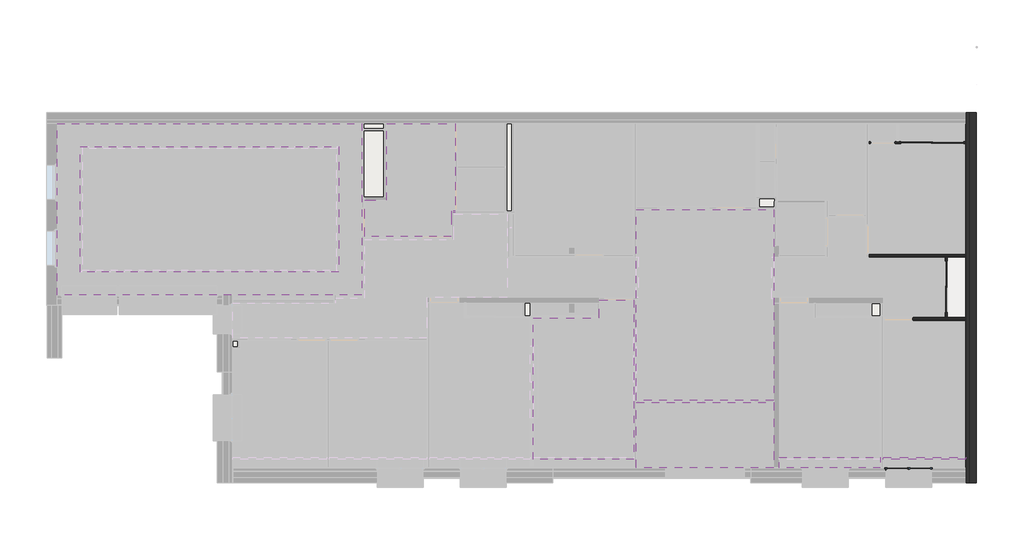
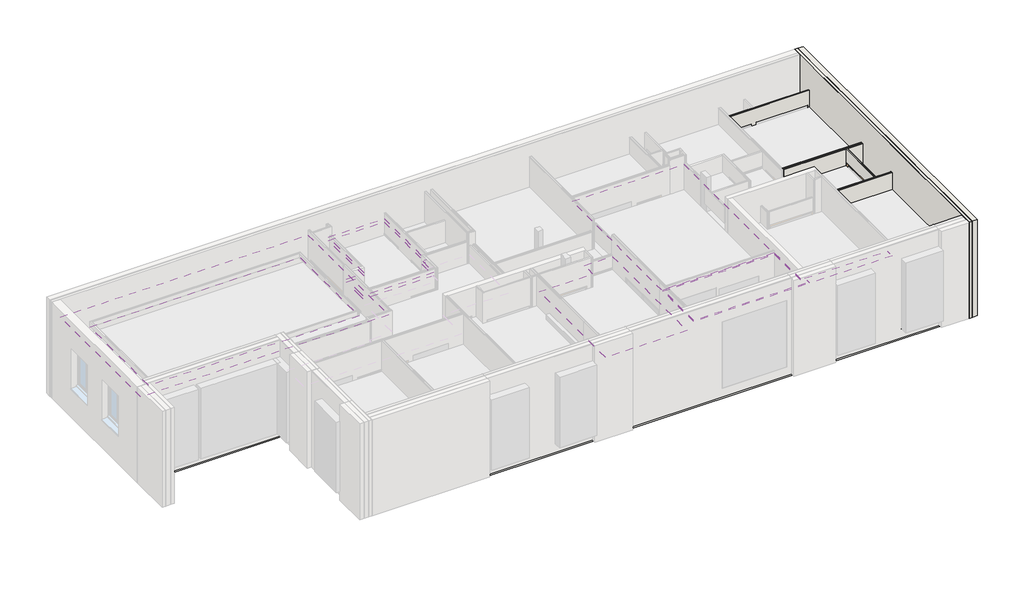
# One storey, part 6 of 8: 10 coverings, 6 walls, 5 slabs, 2 doors, 1 window.
"""IFC4 building model written with IfcOpenShell, lengths in millimetres."""

from ifc_helpers import new_model, si_unit, frame, origin, origin_with_axes, place, context, project, spatial, polyline, outline, extrude, transform, mapped, element, save
from components import door_b5ea6a65, door_9579ce56, window_4ef66e8a

model = new_model("IFC4")

# Units and contexts
model_context = context("Model", 3, world=origin())
ifc_project = project(units=[si_unit("LENGTHUNIT", "METRE", prefix="MILLI")], contexts=[model_context])

# Site, building, storey
site = spatial("IfcSite", under=ifc_project)
building = spatial("IfcBuilding", under=site)
storey = spatial("IfcBuildingStorey", under=building, Name="0 Mairie RDC 0.00", Elevation=0.0)

# Coverings
placement = place(None, origin())
element("IfcCovering", 1, ObjectType="Plafonds - Plafond composé - A Plafond plaque de platre ba10", at=placement, inside=storey, context=model_context, shape_type="SweptSolid", body=[
    extrude(outline(polyline([(1777.6156007, -6633.7824715), (1777.6156007, -8731.1038426), (1127.9012584, -8731.1038426), (1127.9012584, -6633.7824715), (1777.6156007, -6633.7824715)])), frame((0.0, 0.0, 2600.0), z_axis=(0.0, 0.0, 1.0), x_axis=(1.0, 0.0, 0.0)), (0.0, 0.0, 1.0), 40.0),
    extrude(outline(polyline([(1777.6156007, -6633.7824715), (1777.6156007, -8731.1038426), (1127.9012584, -8731.1038426), (1127.9012584, -6633.7824715), (1777.6156007, -6633.7824715)])), frame((0.0, 0.0, 2640.0), z_axis=(0.0, 0.0, 1.0), x_axis=(1.0, 0.0, 0.0)), (0.0, 0.0, 1.0), 10.0),
    extrude(outline(polyline([(-20502.1562042, -13678.5662223), (-23778.2803137, -13678.5662223), (-23778.2803137, -9829.2788136), (-23520.6325674, -9829.2788136), (-23520.6325674, -9549.0775347), (-20502.1562042, -9549.0775347), (-20502.1562042, -13678.5662223)])), frame((0.0, 0.0, 2600.0), z_axis=(0.0, 0.0, 1.0), x_axis=(1.0, 0.0, 0.0)), (0.0, 0.0, 1.0), 40.0),
    extrude(outline(polyline([(-20502.1562042, -13678.5662223), (-23778.2803137, -13678.5662223), (-23778.2803137, -9829.2788136), (-23520.6325674, -9829.2788136), (-23520.6325674, -9549.0775347), (-20502.1562042, -9549.0775347), (-20502.1562042, -13678.5662223)])), frame((0.0, 0.0, 2640.0), z_axis=(0.0, 0.0, 1.0), x_axis=(1.0, 0.0, 0.0)), (0.0, 0.0, 1.0), 10.0),
    extrude(outline(polyline([(-4877.4967035, -1972.7637486), (-4877.4967035, -3257.7490792), (-5427.496701, -3257.7490792), (-5427.496701, -1972.7637486), (-4877.4967035, -1972.7637486)])), frame((0.0, 0.0, 2600.0), z_axis=(0.0, 0.0, 1.0), x_axis=(1.0, 0.0, 0.0)), (0.0, 0.0, 1.0), 40.0),
    extrude(outline(polyline([(-4877.4967035, -1972.7637486), (-4877.4967035, -3257.7490792), (-5427.496701, -3257.7490792), (-5427.496701, -1972.7637486), (-4877.4967035, -1972.7637486)])), frame((0.0, 0.0, 2640.0), z_axis=(0.0, 0.0, 1.0), x_axis=(1.0, 0.0, 0.0)), (0.0, 0.0, 1.0), 10.0),
    extrude(outline(polyline([(-4877.4967035, -3327.7490792), (-4877.4967035, -4510.805772), (-5427.496701, -4510.805772), (-5427.496701, -3327.7490792), (-4877.4967035, -3327.7490792)])), frame((0.0, 0.0, 2600.0), z_axis=(0.0, 0.0, 1.0), x_axis=(1.0, 0.0, 0.0)), (0.0, 0.0, 1.0), 40.0),
    extrude(outline(polyline([(-4877.4967035, -3327.7490792), (-4877.4967035, -4510.805772), (-5427.496701, -4510.805772), (-5427.496701, -3327.7490792), (-4877.4967035, -3327.7490792)])), frame((0.0, 0.0, 2640.0), z_axis=(0.0, 0.0, 1.0), x_axis=(1.0, 0.0, 0.0)), (0.0, 0.0, 1.0), 10.0),
    extrude(outline(polyline([(-1717.7552543, -1972.0566419), (-1717.7552543, -5137.6533676), (-3018.9176162, -5137.6533676), (-3018.9176162, -4652.7868397), (-4807.4967035, -4652.7868397), (-4807.4967035, -1972.0566419), (-1717.7552543, -1972.0566419)])), frame((0.0, 0.0, 2600.0), z_axis=(0.0, 0.0, 1.0), x_axis=(1.0, 0.0, 0.0)), (0.0, 0.0, 1.0), 40.0),
    extrude(outline(polyline([(-1717.7552543, -1972.0566419), (-1717.7552543, -5137.6533676), (-3018.9176162, -5137.6533676), (-3018.9176162, -4652.7868397), (-4807.4967035, -4652.7868397), (-4807.4967035, -1972.0566419), (-1717.7552543, -1972.0566419)])), frame((0.0, 0.0, 2640.0), z_axis=(0.0, 0.0, 1.0), x_axis=(1.0, 0.0, 0.0)), (0.0, 0.0, 1.0), 10.0),
    extrude(outline(polyline([(-634.0175894, -1972.7637486), (-634.0175894, -2602.7637486), (-1617.7552543, -2602.7637486), (-1617.7552543, -1972.7637486), (-634.0175894, -1972.7637486)])), frame((0.0, 0.0, 2600.0), z_axis=(0.0, 0.0, 1.0), x_axis=(1.0, 0.0, 0.0)), (0.0, 0.0, 1.0), 40.0),
    extrude(outline(polyline([(-634.0175894, -1972.7637486), (-634.0175894, -2602.7637486), (-1617.7552543, -2602.7637486), (-1617.7552543, -1972.7637486), (-634.0175894, -1972.7637486)])), frame((0.0, 0.0, 2640.0), z_axis=(0.0, 0.0, 1.0), x_axis=(1.0, 0.0, 0.0)), (0.0, 0.0, 1.0), 10.0),
    extrude(outline(polyline([(-1617.7552543, -2672.7637486), (1777.6156007, -2672.7637486), (1777.6156007, -6533.7824715), (-1617.7552543, -6533.7824715), (-1617.7552543, -2672.7637486)])), frame((0.0, 0.0, 2600.0), z_axis=(0.0, 0.0, 1.0), x_axis=(1.0, 0.0, 0.0)), (0.0, 0.0, 1.0), 40.0),
    extrude(outline(polyline([(-1617.7552543, -2672.7637486), (1777.6156007, -2672.7637486), (1777.6156007, -6533.7824715), (-1617.7552543, -6533.7824715), (-1617.7552543, -2672.7637486)])), frame((0.0, 0.0, 2640.0), z_axis=(0.0, 0.0, 1.0), x_axis=(1.0, 0.0, 0.0)), (0.0, 0.0, 1.0), 10.0),
    extrude(outline(polyline([(1777.6156007, -8831.1038426), (1777.6156007, -13678.5662223), (-1106.3922233, -13678.5662223), (-1106.3922233, -8831.1038426), (1777.6156007, -8831.1038426)])), frame((0.0, 0.0, 2600.0), z_axis=(0.0, 0.0, 1.0), x_axis=(1.0, 0.0, 0.0)), (0.0, 0.0, 1.0), 40.0),
    extrude(outline(polyline([(1777.6156007, -8831.1038426), (1777.6156007, -13678.5662223), (-1106.3922233, -13678.5662223), (-1106.3922233, -8831.1038426), (1777.6156007, -8831.1038426)])), frame((0.0, 0.0, 2640.0), z_axis=(0.0, 0.0, 1.0), x_axis=(1.0, 0.0, 0.0)), (0.0, 0.0, 1.0), 10.0),
    extrude(outline(polyline([(-1576.0769125, -8238.2685444), (-1576.0769125, -8681.7570094), (-3456.0406291, -8681.7570094), (-3456.0406291, -8238.2685444), (-1576.0769125, -8238.2685444)])), frame((0.0, 0.0, 2600.0), z_axis=(0.0, 0.0, 1.0), x_axis=(1.0, 0.0, 0.0)), (0.0, 0.0, 1.0), 40.0),
    extrude(outline(polyline([(-1576.0769125, -8238.2685444), (-1576.0769125, -8681.7570094), (-3456.0406291, -8681.7570094), (-3456.0406291, -8238.2685444), (-1576.0769125, -8238.2685444)])), frame((0.0, 0.0, 2640.0), z_axis=(0.0, 0.0, 1.0), x_axis=(1.0, 0.0, 0.0)), (0.0, 0.0, 1.0), 10.0),
    extrude(outline(polyline([(-3526.0406291, -8751.7570094), (-1206.3922233, -8751.7570094), (-1206.3922233, -13678.5662223), (-4727.496702, -13678.5662223), (-4727.496702, -8238.2685444), (-3526.0406291, -8238.2685444), (-3526.0406291, -8751.7570094)])), frame((0.0, 0.0, 2600.0), z_axis=(0.0, 0.0, 1.0), x_axis=(1.0, 0.0, 0.0)), (0.0, 0.0, 1.0), 40.0),
    extrude(outline(polyline([(-3526.0406291, -8751.7570094), (-1206.3922233, -8751.7570094), (-1206.3922233, -13678.5662223), (-4727.496702, -13678.5662223), (-4727.496702, -8238.2685444), (-3526.0406291, -8238.2685444), (-3526.0406291, -8751.7570094)])), frame((0.0, 0.0, 2640.0), z_axis=(0.0, 0.0, 1.0), x_axis=(1.0, 0.0, 0.0)), (0.0, 0.0, 1.0), 10.0),
    extrude(outline(polyline([(-564.0175894, -1972.7637486), (1777.6156007, -1972.7637486), (1777.6156007, -2602.7637486), (-564.0175894, -2602.7637486), (-564.0175894, -1972.7637486)])), frame((0.0, 0.0, 2600.0), z_axis=(0.0, 0.0, 1.0), x_axis=(1.0, 0.0, 0.0)), (0.0, 0.0, 1.0), 40.0),
    extrude(outline(polyline([(-564.0175894, -1972.7637486), (1777.6156007, -1972.7637486), (1777.6156007, -2602.7637486), (-564.0175894, -2602.7637486), (-564.0175894, -1972.7637486)])), frame((0.0, 0.0, 2640.0), z_axis=(0.0, 0.0, 1.0), x_axis=(1.0, 0.0, 0.0)), (0.0, 0.0, 1.0), 10.0),
    extrude(outline(polyline([(-5527.496701, -1972.7637486), (-5527.496701, -4878.2154166), (-9708.4471465, -4878.2154166), (-9708.4471465, -1972.7637486), (-5527.496701, -1972.7637486)])), frame((0.0, 0.0, 2600.0), z_axis=(0.0, 0.0, 1.0), x_axis=(1.0, 0.0, 0.0)), (0.0, 0.0, 1.0), 40.0),
    extrude(outline(polyline([(-5527.496701, -1972.7637486), (-5527.496701, -4878.2154166), (-9708.4471465, -4878.2154166), (-9708.4471465, -1972.7637486), (-5527.496701, -1972.7637486)])), frame((0.0, 0.0, 2640.0), z_axis=(0.0, 0.0, 1.0), x_axis=(1.0, 0.0, 0.0)), (0.0, 0.0, 1.0), 10.0),
    extrude(outline(polyline([(-9808.4471465, -1972.7637486), (-9808.4471465, -6532.5340392), (-13736.6269046, -6532.5340392), (-13736.6269046, -1972.7637486), (-9808.4471465, -1972.7637486)])), frame((0.0, 0.0, 2600.0), z_axis=(0.0, 0.0, 1.0), x_axis=(1.0, 0.0, 0.0)), (0.0, 0.0, 1.0), 40.0),
    extrude(outline(polyline([(-9808.4471465, -1972.7637486), (-9808.4471465, -6532.5340392), (-13736.6269046, -6532.5340392), (-13736.6269046, -1972.7637486), (-9808.4471465, -1972.7637486)])), frame((0.0, 0.0, 2640.0), z_axis=(0.0, 0.0, 1.0), x_axis=(1.0, 0.0, 0.0)), (0.0, 0.0, 1.0), 10.0),
    extrude(outline(polyline([(-11003.1086334, -8752.6130855), (-11003.1086334, -8132.7867091), (-9804.6455383, -8132.7867091), (-9804.6455383, -13678.5662223), (-13304.255006, -13678.5662223), (-13304.255006, -8752.6130855), (-11003.1086334, -8752.6130855)])), frame((0.0, 0.0, 2600.0), z_axis=(0.0, 0.0, 1.0), x_axis=(1.0, 0.0, 0.0)), (0.0, 0.0, 1.0), 40.0),
    extrude(outline(polyline([(-11003.1086334, -8752.6130855), (-11003.1086334, -8132.7867091), (-9804.6455383, -8132.7867091), (-9804.6455383, -13678.5662223), (-13304.255006, -13678.5662223), (-13304.255006, -8752.6130855), (-11003.1086334, -8752.6130855)])), frame((0.0, 0.0, 2640.0), z_axis=(0.0, 0.0, 1.0), x_axis=(1.0, 0.0, 0.0)), (0.0, 0.0, 1.0), 10.0),
    extrude(outline(polyline([(-13404.255006, -13678.5662223), (-16905.446161, -13678.5662223), (-16905.446161, -8232.7637435), (-15705.446161, -8232.7637435), (-15705.446161, -8752.779598), (-13404.255006, -8752.779598), (-13404.255006, -13678.5662223)])), frame((0.0, 0.0, 2600.0), z_axis=(0.0, 0.0, 1.0), x_axis=(1.0, 0.0, 0.0)), (0.0, 0.0, 1.0), 40.0),
    extrude(outline(polyline([(-13404.255006, -13678.5662223), (-16905.446161, -13678.5662223), (-16905.446161, -8232.7637435), (-15705.446161, -8232.7637435), (-15705.446161, -8752.779598), (-13404.255006, -8752.779598), (-13404.255006, -13678.5662223)])), frame((0.0, 0.0, 2640.0), z_axis=(0.0, 0.0, 1.0), x_axis=(1.0, 0.0, 0.0)), (0.0, 0.0, 1.0), 10.0),
    extrude(outline(polyline([(-17005.446161, -9549.0775347), (-17005.446161, -13678.5662223), (-20402.1562042, -13678.5662223), (-20402.1562042, -9549.0775347), (-17005.446161, -9549.0775347)])), frame((0.0, 0.0, 2600.0), z_axis=(0.0, 0.0, 1.0), x_axis=(1.0, 0.0, 0.0)), (0.0, 0.0, 1.0), 40.0),
    extrude(outline(polyline([(-17005.446161, -9549.0775347), (-17005.446161, -13678.5662223), (-20402.1562042, -13678.5662223), (-20402.1562042, -9549.0775347), (-17005.446161, -9549.0775347)])), frame((0.0, 0.0, 2640.0), z_axis=(0.0, 0.0, 1.0), x_axis=(1.0, 0.0, 0.0)), (0.0, 0.0, 1.0), 10.0),
    extrude(outline(polyline([(-3118.9176162, -4722.7868397), (-3118.9176162, -6533.7824715), (-4727.496702, -6533.7824715), (-4727.496702, -6233.7824715), (-4827.496702, -6233.7824715), (-4827.496702, -4722.7868397), (-3118.9176162, -4722.7868397)])), frame((0.0, 0.0, 2600.0), z_axis=(0.0, 0.0, 1.0), x_axis=(1.0, 0.0, 0.0)), (0.0, 0.0, 1.0), 40.0),
    extrude(outline(polyline([(-3118.9176162, -4722.7868397), (-3118.9176162, -6533.7824715), (-4727.496702, -6533.7824715), (-4727.496702, -6233.7824715), (-4827.496702, -6233.7824715), (-4827.496702, -4722.7868397), (-3118.9176162, -4722.7868397)])), frame((0.0, 0.0, 2640.0), z_axis=(0.0, 0.0, 1.0), x_axis=(1.0, 0.0, 0.0)), (0.0, 0.0, 1.0), 10.0),
    extrude(outline(polyline([(-11073.1086334, -8232.7637435), (-11073.1086334, -8682.6130855), (-13304.255006, -8682.6130855), (-13304.255006, -8232.7637435), (-11073.1086334, -8232.7637435)])), frame((0.0, 0.0, 2600.0), z_axis=(0.0, 0.0, 1.0), x_axis=(1.0, 0.0, 0.0)), (0.0, 0.0, 1.0), 40.0),
    extrude(outline(polyline([(-11073.1086334, -8232.7637435), (-11073.1086334, -8682.6130855), (-13304.255006, -8682.6130855), (-13304.255006, -8232.7637435), (-11073.1086334, -8232.7637435)])), frame((0.0, 0.0, 2640.0), z_axis=(0.0, 0.0, 1.0), x_axis=(1.0, 0.0, 0.0)), (0.0, 0.0, 1.0), 10.0),
    extrude(outline(polyline([(-13671.849822, -8232.7637435), (-13671.849822, -8682.779598), (-15635.446161, -8682.779598), (-15635.446161, -8232.7637435), (-13671.849822, -8232.7637435)])), frame((0.0, 0.0, 2600.0), z_axis=(0.0, 0.0, 1.0), x_axis=(1.0, 0.0, 0.0)), (0.0, 0.0, 1.0), 40.0),
    extrude(outline(polyline([(-13671.849822, -8232.7637435), (-13671.849822, -8682.779598), (-15635.446161, -8682.779598), (-15635.446161, -8232.7637435), (-13671.849822, -8232.7637435)])), frame((0.0, 0.0, 2640.0), z_axis=(0.0, 0.0, 1.0), x_axis=(1.0, 0.0, 0.0)), (0.0, 0.0, 1.0), 10.0),
])
element("IfcCovering", 2, ObjectType="Plafonds - Plafond composé - A Plafond plaque de platre ba10 (1)", at=placement, inside=storey, context=model_context, shape_type="SweptSolid", body=[
    extrude(outline(polyline([(-4927.496702, -4978.2154166), (-4927.496702, -11628.5833837), (-9708.4471465, -11628.5833837), (-9708.4471465, -4978.2154166), (-4927.496702, -4978.2154166)])), frame((0.0, 0.0, 3150.0), z_axis=(0.0, 0.0, 1.0), x_axis=(1.0, 0.0, 0.0)), (0.0, 0.0, 1.0), 40.0),
    extrude(outline(polyline([(-4927.496702, -4978.2154166), (-4927.496702, -11628.5833837), (-9708.4471465, -11628.5833837), (-9708.4471465, -4978.2154166), (-4927.496702, -4978.2154166)])), frame((0.0, 0.0, 3190.0), z_axis=(0.0, 0.0, 1.0), x_axis=(1.0, 0.0, 0.0)), (0.0, 0.0, 1.0), 10.0),
])
element("IfcCovering", 3, ObjectType="Plafonds - Plafond composé - A Plafond plaque de platre ba10 (2)", at=placement, inside=storey, context=model_context, shape_type="SweptSolid", body=[
    extrude(outline(polyline([(-18412.1823363, -1972.7637486), (-16015.9503686, -1972.7637486), (-16015.9503686, -5069.9219201), (-16166.6269046, -5069.9219201), (-16166.6269046, -5912.7637435), (-19182.1823363, -5912.7637435), (-19182.1823363, -4642.5867558), (-18412.1823363, -4642.5867558), (-18412.1823363, -1972.7637486)])), frame((0.0, 0.0, 2750.0), z_axis=(0.0, 0.0, 1.0), x_axis=(1.0, 0.0, 0.0)), (0.0, 0.0, 1.0), 40.0),
    extrude(outline(polyline([(-18412.1823363, -1972.7637486), (-16015.9503686, -1972.7637486), (-16015.9503686, -5069.9219201), (-16166.6269046, -5069.9219201), (-16166.6269046, -5912.7637435), (-19182.1823363, -5912.7637435), (-19182.1823363, -4642.5867558), (-18412.1823363, -4642.5867558), (-18412.1823363, -1972.7637486)])), frame((0.0, 0.0, 2790.0), z_axis=(0.0, 0.0, 1.0), x_axis=(1.0, 0.0, 0.0)), (0.0, 0.0, 1.0), 10.0),
])
element("IfcCovering", 4, ObjectType="Plafonds - Plafond composé - A Plafond plaque de platre ba10 (3)", at=placement, inside=storey, context=model_context, shape_type="SweptSolid", body=[
    extrude(outline(polyline([(-18412.1823363, -1972.7637486), (-16015.9503686, -1972.7637486), (-16015.9503686, -5069.9219201), (-16166.6269046, -5069.9219201), (-16166.6269046, -5912.7637435), (-19182.1823363, -5912.7637435), (-19182.1823363, -4642.5867558), (-18412.1823363, -4642.5867558), (-18412.1823363, -1972.7637486)])), frame((0.0, 0.0, 2750.0), z_axis=(0.0, 0.0, 1.0), x_axis=(1.0, 0.0, 0.0)), (0.0, 0.0, 1.0), 40.0),
    extrude(outline(polyline([(-18412.1823363, -1972.7637486), (-16015.9503686, -1972.7637486), (-16015.9503686, -5069.9219201), (-16166.6269046, -5069.9219201), (-16166.6269046, -5912.7637435), (-19182.1823363, -5912.7637435), (-19182.1823363, -4642.5867558), (-18412.1823363, -4642.5867558), (-18412.1823363, -1972.7637486)])), frame((0.0, 0.0, 2790.0), z_axis=(0.0, 0.0, 1.0), x_axis=(1.0, 0.0, 0.0)), (0.0, 0.0, 1.0), 10.0),
    extrude(outline(polyline([(-18512.1823363, -2222.7637486), (-18512.1823363, -4543.7637486), (-19212.1823363, -4543.7637486), (-19212.1823363, -2222.7637486), (-18512.1823363, -2222.7637486)])), frame((0.0, 0.0, 2750.0), z_axis=(0.0, 0.0, 1.0), x_axis=(1.0, 0.0, 0.0)), (0.0, 0.0, 1.0), 40.0),
    extrude(outline(polyline([(-18512.1823363, -2222.7637486), (-18512.1823363, -4543.7637486), (-19212.1823363, -4543.7637486), (-19212.1823363, -2222.7637486), (-18512.1823363, -2222.7637486)])), frame((0.0, 0.0, 2790.0), z_axis=(0.0, 0.0, 1.0), x_axis=(1.0, 0.0, 0.0)), (0.0, 0.0, 1.0), 10.0),
])
element("IfcCovering", 5, ObjectType="Plafonds - Plafond composé - A Plafond plaque de platre ba10 (4)", at=placement, inside=storey, context=model_context, shape_type="SweptSolid", body=[
    extrude(outline(polyline([(-14296.7760862, -3451.3428344), (-15945.9503686, -3451.3428344), (-15945.9503686, -1972.7637486), (-14296.7760862, -1972.7637486), (-14296.7760862, -3451.3428344)])), frame((0.0, 0.0, 2600.0), z_axis=(0.0, 0.0, 1.0), x_axis=(1.0, 0.0, 0.0)), (0.0, 0.0, 1.0), 40.0),
    extrude(outline(polyline([(-14296.7760862, -3451.3428344), (-15945.9503686, -3451.3428344), (-15945.9503686, -1972.7637486), (-14296.7760862, -1972.7637486), (-14296.7760862, -3451.3428344)])), frame((0.0, 0.0, 2640.0), z_axis=(0.0, 0.0, 1.0), x_axis=(1.0, 0.0, 0.0)), (0.0, 0.0, 1.0), 10.0),
    extrude(outline(polyline([(-16015.9503686, -1972.7637486), (-16015.9503686, -5019.9219201), (-16166.6269046, -5019.9219201), (-16166.6269046, -5912.7637435), (-19182.1823363, -5912.7637435), (-19182.1823363, -4642.5867558), (-18412.1823363, -4642.5867558), (-18412.1823363, -1972.7637486), (-16015.9503686, -1972.7637486)])), frame((0.0, 0.0, 2600.0), z_axis=(0.0, 0.0, 1.0), x_axis=(1.0, 0.0, 0.0)), (0.0, 0.0, 1.0), 40.0),
    extrude(outline(polyline([(-16015.9503686, -1972.7637486), (-16015.9503686, -5019.9219201), (-16166.6269046, -5019.9219201), (-16166.6269046, -5912.7637435), (-19182.1823363, -5912.7637435), (-19182.1823363, -4642.5867558), (-18412.1823363, -4642.5867558), (-18412.1823363, -1972.7637486), (-16015.9503686, -1972.7637486)])), frame((0.0, 0.0, 2640.0), z_axis=(0.0, 0.0, 1.0), x_axis=(1.0, 0.0, 0.0)), (0.0, 0.0, 1.0), 10.0),
    extrude(outline(polyline([(-15945.9503686, -3521.3428344), (-14296.7760862, -3521.3428344), (-14296.7760862, -5019.9219201), (-15945.9503686, -5019.9219201), (-15945.9503686, -3521.3428344)])), frame((0.0, 0.0, 2600.0), z_axis=(0.0, 0.0, 1.0), x_axis=(1.0, 0.0, 0.0)), (0.0, 0.0, 1.0), 40.0),
    extrude(outline(polyline([(-15945.9503686, -3521.3428344), (-14296.7760862, -3521.3428344), (-14296.7760862, -5019.9219201), (-15945.9503686, -5019.9219201), (-15945.9503686, -3521.3428344)])), frame((0.0, 0.0, 2640.0), z_axis=(0.0, 0.0, 1.0), x_axis=(1.0, 0.0, 0.0)), (0.0, 0.0, 1.0), 10.0),
])
element("IfcCovering", 6, ObjectType="Plafonds - Plafond composé - A Plafond plaque de platre ba10 (6)", at=placement, inside=storey, context=model_context, shape_type="SweptSolid", body=[
    extrude(outline(polyline([(-29087.0149756, -7153.0211289), (-29087.0149756, -2772.7637486), (-20082.1823363, -2772.7637486), (-20082.1823363, -7153.0211289), (-29087.0149756, -7153.0211289)])), frame((0.0, 0.0, 2900.0), z_axis=(0.0, 0.0, 1.0), x_axis=(1.0, 0.0, 0.0)), (0.0, 0.0, 1.0), 40.0),
    extrude(outline(polyline([(-29087.0149756, -7153.0211289), (-29087.0149756, -2772.7637486), (-20082.1823363, -2772.7637486), (-20082.1823363, -7153.0211289), (-29087.0149756, -7153.0211289)])), frame((0.0, 0.0, 2940.0), z_axis=(0.0, 0.0, 1.0), x_axis=(1.0, 0.0, 0.0)), (0.0, 0.0, 1.0), 10.0),
])
element("IfcCovering", 7, ObjectType="Plafonds - Plafond composé - A Plafond plaque de platre ba10 (7)", at=placement, inside=storey, context=model_context, shape_type="SweptSolid", body=[
    extrude(outline(polyline([(-19282.1823363, -1972.7637486), (-19282.1823363, -7952.7608719), (-29887.0149756, -7952.7608719), (-29887.0149756, -1972.7637486), (-19282.1823363, -1972.7637486)]), holes=[polyline([(-20082.1823363, -2772.7637486), (-29087.0149756, -2772.7637486), (-29087.0149756, -7152.7608719), (-20082.1823363, -7152.7608719), (-20082.1823363, -2772.7637486)])]), frame((0.0, 0.0, 3150.0), z_axis=(0.0, 0.0, 1.0), x_axis=(1.0, 0.0, 0.0)), (0.0, 0.0, 1.0), 40.0),
    extrude(outline(polyline([(-19282.1823363, -1972.7637486), (-19282.1823363, -7952.7608719), (-29887.0149756, -7952.7608719), (-29887.0149756, -1972.7637486), (-19282.1823363, -1972.7637486)]), holes=[polyline([(-20082.1823363, -2772.7637486), (-29087.0149756, -2772.7637486), (-29087.0149756, -7152.7608719), (-20082.1823363, -7152.7608719), (-20082.1823363, -2772.7637486)])]), frame((0.0, 0.0, 3190.0), z_axis=(0.0, 0.0, 1.0), x_axis=(1.0, 0.0, 0.0)), (0.0, 0.0, 1.0), 10.0),
])
element("IfcCovering", 8, ObjectType="Plafonds - Plafond composé - A Plafond plaque de platre ba10 (8)", at=placement, inside=storey, context=model_context, shape_type="SweptSolid", body=[
    extrude(outline(polyline([(1777.6156007, -13978.5662223), (-1106.3922233, -13978.5662223), (-1106.3922233, -13608.5662223), (1777.6156007, -13608.5662223), (1777.6156007, -13978.5662223)])), frame((0.0, 0.0, 3150.0), z_axis=(0.0, 0.0, 1.0), x_axis=(1.0, 0.0, 0.0)), (0.0, 0.0, 1.0), 40.0),
    extrude(outline(polyline([(1777.6156007, -13978.5662223), (-1106.3922233, -13978.5662223), (-1106.3922233, -13608.5662223), (1777.6156007, -13608.5662223), (1777.6156007, -13978.5662223)])), frame((0.0, 0.0, 3190.0), z_axis=(0.0, 0.0, 1.0), x_axis=(1.0, 0.0, 0.0)), (0.0, 0.0, 1.0), 10.0),
    extrude(outline(polyline([(-20502.1562042, -13978.5662223), (-23778.2803137, -13978.5662223), (-23778.2803137, -13608.5662223), (-20502.1562042, -13608.5662223), (-20502.1562042, -13978.5662223)])), frame((0.0, 0.0, 3150.0), z_axis=(0.0, 0.0, 1.0), x_axis=(1.0, 0.0, 0.0)), (0.0, 0.0, 1.0), 40.0),
    extrude(outline(polyline([(-20502.1562042, -13978.5662223), (-23778.2803137, -13978.5662223), (-23778.2803137, -13608.5662223), (-20502.1562042, -13608.5662223), (-20502.1562042, -13978.5662223)])), frame((0.0, 0.0, 3190.0), z_axis=(0.0, 0.0, 1.0), x_axis=(1.0, 0.0, 0.0)), (0.0, 0.0, 1.0), 10.0),
    extrude(outline(polyline([(-17005.446161, -13978.5662223), (-20402.1562042, -13978.5662223), (-20402.1562042, -13608.5662223), (-17005.446161, -13608.5662223), (-17005.446161, -13978.5662223)])), frame((0.0, 0.0, 3150.0), z_axis=(0.0, 0.0, 1.0), x_axis=(1.0, 0.0, 0.0)), (0.0, 0.0, 1.0), 40.0),
    extrude(outline(polyline([(-17005.446161, -13978.5662223), (-20402.1562042, -13978.5662223), (-20402.1562042, -13608.5662223), (-17005.446161, -13608.5662223), (-17005.446161, -13978.5662223)])), frame((0.0, 0.0, 3190.0), z_axis=(0.0, 0.0, 1.0), x_axis=(1.0, 0.0, 0.0)), (0.0, 0.0, 1.0), 10.0),
    extrude(outline(polyline([(-13404.255006, -13978.5662223), (-16905.446161, -13978.5662223), (-16905.446161, -13608.5662223), (-13404.255006, -13608.5662223), (-13404.255006, -13978.5662223)])), frame((0.0, 0.0, 3150.0), z_axis=(0.0, 0.0, 1.0), x_axis=(1.0, 0.0, 0.0)), (0.0, 0.0, 1.0), 40.0),
    extrude(outline(polyline([(-13404.255006, -13978.5662223), (-16905.446161, -13978.5662223), (-16905.446161, -13608.5662223), (-13404.255006, -13608.5662223), (-13404.255006, -13978.5662223)])), frame((0.0, 0.0, 3190.0), z_axis=(0.0, 0.0, 1.0), x_axis=(1.0, 0.0, 0.0)), (0.0, 0.0, 1.0), 10.0),
    extrude(outline(polyline([(-9804.6455383, -13978.5662223), (-13304.255006, -13978.5662223), (-13304.255006, -13608.5662223), (-9804.6455383, -13608.5662223), (-9804.6455383, -13978.5662223)])), frame((0.0, 0.0, 3150.0), z_axis=(0.0, 0.0, 1.0), x_axis=(1.0, 0.0, 0.0)), (0.0, 0.0, 1.0), 40.0),
    extrude(outline(polyline([(-9804.6455383, -13978.5662223), (-13304.255006, -13978.5662223), (-13304.255006, -13608.5662223), (-9804.6455383, -13608.5662223), (-9804.6455383, -13978.5662223)])), frame((0.0, 0.0, 3190.0), z_axis=(0.0, 0.0, 1.0), x_axis=(1.0, 0.0, 0.0)), (0.0, 0.0, 1.0), 10.0),
    extrude(outline(polyline([(-1206.3922233, -13978.5662223), (-4727.496702, -13978.5662223), (-4727.496702, -13608.5662223), (-1206.3922233, -13608.5662223), (-1206.3922233, -13978.5662223)])), frame((0.0, 0.0, 3150.0), z_axis=(0.0, 0.0, 1.0), x_axis=(1.0, 0.0, 0.0)), (0.0, 0.0, 1.0), 40.0),
    extrude(outline(polyline([(-1206.3922233, -13978.5662223), (-4727.496702, -13978.5662223), (-4727.496702, -13608.5662223), (-1206.3922233, -13608.5662223), (-1206.3922233, -13978.5662223)])), frame((0.0, 0.0, 3190.0), z_axis=(0.0, 0.0, 1.0), x_axis=(1.0, 0.0, 0.0)), (0.0, 0.0, 1.0), 10.0),
])
element("IfcCovering", 9, ObjectType="Plafonds - Plafond composé - A Plafond plaque de platre ba10 (9)", at=placement, inside=storey, context=model_context, shape_type="SweptSolid", body=[
    extrude(outline(polyline([(-9704.6455383, -13978.5662223), (-9704.6455383, -11698.5833837), (-4927.496702, -11698.5833837), (-4927.496702, -13978.5662223), (-9704.6455383, -13978.5662223)])), frame((0.0, 0.0, 3150.0), z_axis=(0.0, 0.0, 1.0), x_axis=(1.0, 0.0, 0.0)), (0.0, 0.0, 1.0), 40.0),
    extrude(outline(polyline([(-9704.6455383, -13978.5662223), (-9704.6455383, -11698.5833837), (-4927.496702, -11698.5833837), (-4927.496702, -13978.5662223), (-9704.6455383, -13978.5662223)])), frame((0.0, 0.0, 3190.0), z_axis=(0.0, 0.0, 1.0), x_axis=(1.0, 0.0, 0.0)), (0.0, 0.0, 1.0), 10.0),
])
element("IfcCovering", 10, ObjectType="Plafonds - Plafond composé - A Plafond plaque de platre ba10 (10)", at=placement, inside=storey, context=model_context, shape_type="SweptSolid", body=[
    extrude(outline(polyline([(-4927.496702, -11698.5833837), (-4927.496702, -13978.5662223), (-9704.6455383, -13978.5662223), (-9704.6455383, -11698.5833837), (-4927.496702, -11698.5833837)])), frame((0.0, 0.0, 3200.0), z_axis=(0.0, 0.0, 1.0), x_axis=(1.0, 0.0, 0.0)), (0.0, 0.0, 1.0), 40.0),
    extrude(outline(polyline([(-4927.496702, -11698.5833837), (-4927.496702, -13978.5662223), (-9704.6455383, -13978.5662223), (-9704.6455383, -11698.5833837), (-4927.496702, -11698.5833837)])), frame((0.0, 0.0, 3240.0), z_axis=(0.0, 0.0, 1.0), x_axis=(1.0, 0.0, 0.0)), (0.0, 0.0, 1.0), 10.0),
])

# Doors
door_shape = door_b5ea6a65(model_context)
element("IfcDoor", 11, ObjectType="Portes - Placard coulissante - 2 panneaux - Placard coulissante - 2 panneaux 1.80", at=placement, inside=storey, context=model_context, shape_type="MappedRepresentation", body=[
    mapped(door_shape, transform((1057.9012584, -6757.443157, 0.0), x_axis=(0.0, -1.0, 0.0), y_axis=(1.0, 0.0, 0.0), z_axis=(0.0, 0.0, 1.0))),
])
door_2_shape = door_9579ce56(model_context)
element("IfcDoor", 12, ObjectType="Portes - Placard coulissante - 2 panneaux - Placard coulissante - 2 panneaux 2.20", at=placement, inside=storey, context=model_context, shape_type="MappedRepresentation", body=[
    mapped(door_2_shape, transform((1700.9824106, -2602.7637486, 0.0), x_axis=(-1.0, 0.0, 0.0), y_axis=(0.0, -1.0, 0.0), z_axis=(0.0, 0.0, 1.0))),
])

# Slabs
element("IfcSlab", 13, ObjectType="Sols - Sol - A chape 6 + isolant 12 + dalle ba 15 + tout venant 30", at=placement, inside=storey, context=model_context, shape_type="SweptSolid", body=[
    extrude(outline(polyline([(-30017.0149756, -8083.0211289), (-30017.0149756, -1842.7637486), (1907.6156007, -1842.7637486), (1907.6156007, -14108.5662223), (-23908.2803137, -14108.5662223), (-23908.2803137, -8083.0211289), (-30017.0149756, -8083.0211289)])), frame((0.0, 0.0, -80.0), z_axis=(0.0, 0.0, 1.0), x_axis=(1.0, 0.0, 0.0)), (0.0, 0.0, 1.0), 60.0),
    extrude(outline(polyline([(-30017.0149756, -8083.0211289), (-30017.0149756, -1842.7637486), (1907.6156007, -1842.7637486), (1907.6156007, -14108.5662223), (-23908.2803137, -14108.5662223), (-23908.2803137, -8083.0211289), (-30017.0149756, -8083.0211289)])), frame((0.0, 0.0, -200.0), z_axis=(0.0, 0.0, 1.0), x_axis=(1.0, 0.0, 0.0)), (0.0, 0.0, 1.0), 120.0),
    extrude(outline(polyline([(-30017.0149756, -8083.0211289), (-30017.0149756, -1842.7637486), (1907.6156007, -1842.7637486), (1907.6156007, -14108.5662223), (-23908.2803137, -14108.5662223), (-23908.2803137, -8083.0211289), (-30017.0149756, -8083.0211289)])), frame((0.0, 0.0, -350.0), z_axis=(0.0, 0.0, 1.0), x_axis=(1.0, 0.0, 0.0)), (0.0, 0.0, 1.0), 150.0),
    extrude(outline(polyline([(-30017.0149756, -8083.0211289), (-30017.0149756, -1842.7637486), (1907.6156007, -1842.7637486), (1907.6156007, -14108.5662223), (-23908.2803137, -14108.5662223), (-23908.2803137, -8083.0211289), (-30017.0149756, -8083.0211289)])), frame((0.0, 0.0, -650.0), z_axis=(0.0, 0.0, 1.0), x_axis=(1.0, 0.0, 0.0)), (0.0, 0.0, 1.0), 300.0),
])
element("IfcSlab", 14, ObjectType="Sols - Sol - A Carrelage1 20x20 (1)", at=placement, inside=storey, context=model_context, shape_type="SweptSolid", body=[
    extrude(outline(polyline([(-14296.7760862, -1972.7637486), (-14296.7760862, -5019.9219201), (-16166.6269046, -5019.9219201), (-16166.6269046, -5912.7637435), (-16181.6269046, -5912.7637435), (-16181.6269046, -5962.7637435), (-17181.6269046, -5962.7637435), (-17181.6269046, -5912.7637435), (-19182.1823363, -5912.7637435), (-19182.1823363, -5897.7637435), (-19222.1823363, -5897.7637435), (-19222.1823363, -4897.7637435), (-19182.1823363, -4897.7637435), (-19182.1823363, -4643.7637486), (-18412.1823363, -4643.7637486), (-18412.1823363, -1972.7637486), (-14296.7760862, -1972.7637486)])), frame((0.0, 0.0, -20.0), z_axis=(0.0, 0.0, 1.0), x_axis=(1.0, 0.0, 0.0)), (0.0, 0.0, 1.0), 20.0),
])
element("IfcSlab", 15, ObjectType="Sols - Sol - A Carrelage 2 30x30", at=placement, inside=storey, context=model_context, shape_type="SweptSolid", body=[
    extrude(outline(polyline([(-19282.1823363, -1972.7637486), (-19282.1823363, -2222.7637486), (-18512.1823363, -2222.7637486), (-18512.1823363, -4543.7637486), (-19282.1823363, -4543.7637486), (-19282.1823363, -6244.4612155), (-19234.7593056, -6244.4612155), (-19234.7593056, -7914.4612155), (-19282.1823363, -7914.4612155), (-19282.1823363, -7952.7608719), (-20246.3913721, -7952.7608719), (-20246.3913721, -8080.3569594), (-23778.2803137, -8080.3569594), (-23778.2803137, -7953.0211289), (-29887.0149756, -7953.0211289), (-29887.0149756, -1972.7637486), (-19282.1823363, -1972.7637486)])), frame((0.0, 0.0, -20.0), z_axis=(0.0, 0.0, 1.0), x_axis=(1.0, 0.0, 0.0)), (0.0, 0.0, 1.0), 20.0),
])
element("IfcSlab", 16, ObjectType="Sols - Sol - A Carrelage 2 30x30 (1)", at=placement, inside=storey, context=model_context, shape_type="SweptSolid", body=[
    extrude(outline(polyline([(-4927.496702, -4978.2154166), (-4927.496702, -13978.5662223), (-9708.4471465, -13978.5662223), (-9708.4471465, -4978.2154166), (-4927.496702, -4978.2154166)])), frame((0.0, 0.0, -20.0), z_axis=(0.0, 0.0, 1.0), x_axis=(1.0, 0.0, 0.0)), (0.0, 0.0, 1.0), 20.0),
])
element("IfcSlab", 17, ObjectType="Sols - Sol - A Sol souple 1", at=placement, inside=storey, context=model_context, shape_type="SweptSolid", body=[
    extrude(outline(polyline([(-9704.6455383, -13978.5662223), (-23778.2803137, -13978.5662223), (-23778.2803137, -8230.3569594), (-20176.3913721, -8230.3569594), (-20176.3913721, -8052.7608719), (-19182.1823363, -8052.7608719), (-19182.1823363, -7914.4612155), (-19234.7593056, -7914.4612155), (-19234.7593056, -6244.4612155), (-19182.1823363, -6244.4612155), (-19182.1823363, -5962.7637435), (-16181.6269046, -5962.7637435), (-16181.6269046, -6012.7637435), (-16066.6269046, -6012.7637435), (-16066.6269046, -5119.9219201), (-14202.6238573, -5119.9219201), (-13946.7760862, -5119.9219201), (-13946.7760862, -1972.7637486), (-5427.496701, -1972.7637486), (-5427.496701, -4510.805772), (-5527.496701, -4510.805772), (-5527.496701, -4978.2154166), (-5917.4166831, -4978.2154166), (-5917.4166831, -4928.2154166), (-6917.4166831, -4928.2154166), (-6917.4166831, -4978.2154166), (-9704.6455383, -4978.2154166), (-9704.6455383, -13978.5662223)])), frame((0.0, 0.0, -20.0), z_axis=(0.0, 0.0, 1.0), x_axis=(1.0, 0.0, 0.0)), (0.0, 0.0, 1.0), 20.0),
])

# Walls
element("IfcWall", 18, ObjectType="Murs - Mur de base - A cloison placostil 98 sèche", at=placement, inside=storey, context=model_context, shape_type="SweptSolid", body=[
    extrude(outline(polyline([(-1617.7552543, -6633.7824715), (-1617.7552543, -6621.2824715), (1777.6156007, -6621.2824715), (1777.6156007, -6633.7824715), (-1617.7552543, -6633.7824715)])), origin_with_axes(), (0.0, 0.0, 1.0), 2750.0),
    extrude(outline(polyline([(-1617.7552543, -6621.2824715), (-1617.7552543, -6608.7824715), (1777.6156007, -6608.7824715), (1777.6156007, -6621.2824715), (-1617.7552543, -6621.2824715)])), origin_with_axes(), (0.0, 0.0, 1.0), 2750.0),
    extrude(outline(polyline([(-1617.7552543, -6608.7824715), (-1617.7552543, -6558.7824715), (1777.6156007, -6558.7824715), (1777.6156007, -6608.7824715), (-1617.7552543, -6608.7824715)])), origin_with_axes(), (0.0, 0.0, 1.0), 2750.0),
    extrude(outline(polyline([(-1617.7552543, -6558.7824715), (-1617.7552543, -6546.2824715), (1777.6156007, -6546.2824715), (1777.6156007, -6558.7824715), (-1617.7552543, -6558.7824715)])), origin_with_axes(), (0.0, 0.0, 1.0), 2750.0),
    extrude(outline(polyline([(-1617.7552543, -6546.2824715), (-1617.7552543, -6533.7824715), (1777.6156007, -6533.7824715), (1777.6156007, -6546.2824715), (-1617.7552543, -6546.2824715)])), origin_with_axes(), (0.0, 0.0, 1.0), 2750.0),
])
element("IfcWall", 19, ObjectType="Murs - Mur de base - A cloison placostil 98 sèche", at=placement, inside=storey, context=model_context, shape_type="SweptSolid", body=[
    extrude(outline(polyline([(2750.0, 1777.6156007), (2750.0, -1106.3922233), (0.0, -1106.3922233), (0.0, -1091.3922233), (2075.0, -1091.3922233), (2075.0, -91.3922233), (0.0, -91.3922233), (0.0, 1777.6156007), (2750.0, 1777.6156007)])), frame((0.0, -8831.1038426, 0.0), z_axis=(0.0, 1.0, 0.0), x_axis=(0.0, 0.0, 1.0)), (0.0, 0.0, 1.0), 12.5),
    extrude(outline(polyline([(2750.0, 1777.6156007), (2750.0, -1106.3922233), (0.0, -1106.3922233), (0.0, -1091.3922233), (2075.0, -1091.3922233), (2075.0, -91.3922233), (0.0, -91.3922233), (0.0, 1777.6156007), (2750.0, 1777.6156007)])), frame((0.0, -8818.6038426, 0.0), z_axis=(0.0, 1.0, 0.0), x_axis=(0.0, 0.0, 1.0)), (0.0, 0.0, 1.0), 12.5),
    extrude(outline(polyline([(2750.0, 1777.6156007), (2750.0, -1106.3922233), (0.0, -1106.3922233), (0.0, -1091.3922233), (2075.0, -1091.3922233), (2075.0, -91.3922233), (0.0, -91.3922233), (0.0, 1777.6156007), (2750.0, 1777.6156007)])), frame((0.0, -8806.1038426, 0.0), z_axis=(0.0, 1.0, 0.0), x_axis=(0.0, 0.0, 1.0)), (0.0, 0.0, 1.0), 50.0),
    extrude(outline(polyline([(2750.0, 1777.6156007), (2750.0, -1106.3922233), (0.0, -1106.3922233), (0.0, -1091.3922233), (2075.0, -1091.3922233), (2075.0, -91.3922233), (0.0, -91.3922233), (0.0, 1777.6156007), (2750.0, 1777.6156007)])), frame((0.0, -8756.1038426, 0.0), z_axis=(0.0, 1.0, 0.0), x_axis=(0.0, 0.0, 1.0)), (0.0, 0.0, 1.0), 12.5),
    extrude(outline(polyline([(2750.0, 1777.6156007), (2750.0, -1106.3922233), (0.0, -1106.3922233), (0.0, -1091.3922233), (2075.0, -1091.3922233), (2075.0, -91.3922233), (0.0, -91.3922233), (0.0, 1777.6156007), (2750.0, 1777.6156007)])), frame((0.0, -8743.6038426, 0.0), z_axis=(0.0, 1.0, 0.0), x_axis=(0.0, 0.0, 1.0)), (0.0, 0.0, 1.0), 12.5),
])
element("IfcWall", 20, ObjectType="Murs - Mur de base - A cloison placostil 72 sèche", at=placement, inside=storey, context=model_context, shape_type="SweptSolid", body=[
    extrude(outline(polyline([(2750.0, 1777.6156007), (2750.0, -1617.7552543), (0.0, -1617.7552543), (0.0, -1525.8864219), (2075.0, -1525.8864219), (2075.0, -725.8864219), (0.0, -725.8864219), (0.0, -499.0175894), (2100.0, -499.0175894), (2100.0, 1700.9824106), (0.0, 1700.9824106), (0.0, 1777.6156007), (2750.0, 1777.6156007)])), frame((0.0, -2672.7637486, 0.0), z_axis=(0.0, 1.0, 0.0), x_axis=(0.0, 0.0, 1.0)), (0.0, 0.0, 1.0), 10.0),
    extrude(outline(polyline([(2750.0, 1777.6156007), (2750.0, -1617.7552543), (0.0, -1617.7552543), (0.0, -1525.8864219), (2075.0, -1525.8864219), (2075.0, -725.8864219), (0.0, -725.8864219), (0.0, -499.0175894), (2100.0, -499.0175894), (2100.0, 1700.9824106), (0.0, 1700.9824106), (0.0, 1777.6156007), (2750.0, 1777.6156007)])), frame((0.0, -2662.7637486, 0.0), z_axis=(0.0, 1.0, 0.0), x_axis=(0.0, 0.0, 1.0)), (0.0, 0.0, 1.0), 50.0),
    extrude(outline(polyline([(2750.0, 1777.6156007), (2750.0, -1617.7552543), (0.0, -1617.7552543), (0.0, -1525.8864219), (2075.0, -1525.8864219), (2075.0, -725.8864219), (0.0, -725.8864219), (0.0, -499.0175894), (2100.0, -499.0175894), (2100.0, 1700.9824106), (0.0, 1700.9824106), (0.0, 1777.6156007), (2750.0, 1777.6156007)])), frame((0.0, -2612.7637486, 0.0), z_axis=(0.0, 1.0, 0.0), x_axis=(0.0, 0.0, 1.0)), (0.0, 0.0, 1.0), 10.0),
])
element("IfcWall", 21, ObjectType="Murs - Mur de base - A cloison placostil 72 sèche", at=placement, inside=storey, context=model_context, shape_type="SweptSolid", body=[
    extrude(outline(polyline([(-8731.1038426, 2750.0), (-6633.7824715, 2750.0), (-6633.7824715, 0.0), (-6757.443157, 0.0), (-6757.443157, 2100.0), (-8557.443157, 2100.0), (-8557.443157, 0.0), (-8731.1038426, 0.0), (-8731.1038426, 2750.0)])), frame((1057.9012584, 0.0, 0.0), z_axis=(1.0, 0.0, 0.0), x_axis=(0.0, 1.0, 0.0)), (0.0, 0.0, 1.0), 10.0),
    extrude(outline(polyline([(-8731.1038426, 2750.0), (-6633.7824715, 2750.0), (-6633.7824715, 0.0), (-6757.443157, 0.0), (-6757.443157, 2100.0), (-8557.443157, 2100.0), (-8557.443157, 0.0), (-8731.1038426, 0.0), (-8731.1038426, 2750.0)])), frame((1067.9012584, 0.0, 0.0), z_axis=(1.0, 0.0, 0.0), x_axis=(0.0, 1.0, 0.0)), (0.0, 0.0, 1.0), 50.0),
    extrude(outline(polyline([(-8731.1038426, 2750.0), (-6633.7824715, 2750.0), (-6633.7824715, 0.0), (-6757.443157, 0.0), (-6757.443157, 2100.0), (-8557.443157, 2100.0), (-8557.443157, 0.0), (-8731.1038426, 0.0), (-8731.1038426, 2750.0)])), frame((1117.9012584, 0.0, 0.0), z_axis=(1.0, 0.0, 0.0), x_axis=(0.0, 1.0, 0.0)), (0.0, 0.0, 1.0), 10.0),
])
element("IfcWall", 22, ObjectType="Murs - Mur de base - A  Béton 22 + vide 1 +  Doublage 14", at=placement, inside=storey, context=model_context, shape_type="SweptSolid", body=[
    extrude(outline(polyline([(2137.6156007, -14508.5662223), (1917.6156007, -14508.5662223), (1917.6156007, -1582.7637486), (2137.6156007, -1582.7637486), (2137.6156007, -14508.5662223)])), frame((0.0, 0.0, -400.0), z_axis=(0.0, 0.0, 1.0), x_axis=(1.0, 0.0, 0.0)), (0.0, 0.0, 1.0), 4350.0),
    extrude(outline(polyline([(1917.6156007, -14508.5662223), (1907.6156007, -14508.5662223), (1907.6156007, -1582.7637486), (1917.6156007, -1582.7637486), (1917.6156007, -14508.5662223)])), frame((0.0, 0.0, -400.0), z_axis=(0.0, 0.0, 1.0), x_axis=(1.0, 0.0, 0.0)), (0.0, 0.0, 1.0), 4350.0),
    extrude(outline(polyline([(-14508.5662223, 3950.0), (-1582.7637486, 3950.0), (-1582.7637486, -400.0), (-1842.7637486, -400.0), (-1842.7637486, -20.0), (-14108.5662223, -20.0), (-14108.5662223, -400.0), (-14508.5662223, -400.0), (-14508.5662223, 3950.0)])), frame((1787.6156007, 0.0, 0.0), z_axis=(1.0, 0.0, 0.0), x_axis=(0.0, 1.0, 0.0)), (0.0, 0.0, 1.0), 120.0),
    extrude(outline(polyline([(-14508.5662223, 3950.0), (-1582.7637486, 3950.0), (-1582.7637486, -400.0), (-1842.7637486, -400.0), (-1842.7637486, -20.0), (-14108.5662223, -20.0), (-14108.5662223, -400.0), (-14508.5662223, -400.0), (-14508.5662223, 3950.0)])), frame((1777.6156007, 0.0, 0.0), z_axis=(1.0, 0.0, 0.0), x_axis=(0.0, 1.0, 0.0)), (0.0, 0.0, 1.0), 10.0),
])
element("IfcWall", 23, ObjectType="Murs - Mur de base - A cloison placostil 72 sèche", at=placement, inside=storey, context=model_context, shape_type="SweptSolid", body=[
    extrude(outline(polyline([(-1106.3922233, -13678.5662223), (-1106.3922233, -13668.5662223), (1777.6156007, -13668.5662223), (1777.6156007, -13678.5662223), (-1106.3922233, -13678.5662223)])), frame((0.0, 0.0, 2650.0), z_axis=(0.0, 0.0, 1.0), x_axis=(1.0, 0.0, 0.0)), (0.0, 0.0, 1.0), 510.0),
    extrude(outline(polyline([(-1106.3922233, -13668.5662223), (-1106.3922233, -13618.5662223), (1777.6156007, -13618.5662223), (1777.6156007, -13668.5662223), (-1106.3922233, -13668.5662223)])), frame((0.0, 0.0, 2650.0), z_axis=(0.0, 0.0, 1.0), x_axis=(1.0, 0.0, 0.0)), (0.0, 0.0, 1.0), 510.0),
    extrude(outline(polyline([(-1106.3922233, -13618.5662223), (-1106.3922233, -13608.5662223), (1777.6156007, -13608.5662223), (1777.6156007, -13618.5662223), (-1106.3922233, -13618.5662223)])), frame((0.0, 0.0, 2650.0), z_axis=(0.0, 0.0, 1.0), x_axis=(1.0, 0.0, 0.0)), (0.0, 0.0, 1.0), 510.0),
])

# Window
window_shape = window_4ef66e8a(model_context)
element("IfcWindow", 24, ObjectType="Fenêtres - PF 2 Vantaux - Droits - 1.60 x 3.15", at=placement, inside=storey, context=model_context, shape_type="MappedRepresentation", body=[
    mapped(window_shape, transform((627.6156007, -13658.5662223, 0.0), x_axis=(-1.0, 0.0, 0.0), y_axis=(0.0, -1.0, 0.0), z_axis=(0.0, 0.0, 1.0))),
])

save(model, "model.ifc")
